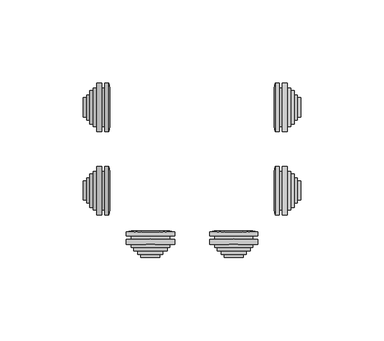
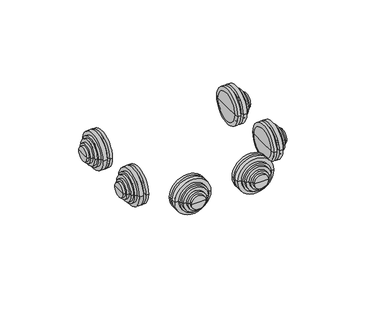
"""IFC4 building model written with IfcOpenShell, lengths in millimetres: cable carrier fitting geometry, КНС_КоробкаОтветвительнаяСКабельнымиВводами_8+2_IP55_DKC : с 8+2 кабельными вводами д.20/20мм, IP55,70х70х40мм."""

from ifc_helpers import new_model, si_unit, frame, origin, place, context, project, spatial, polyline, circle_curve, source, transform, mapped, element, save
from ifc_brep_helpers import plane_surface, cylinder_surface, revolved_surface, advanced_brep


def cable_carrier_fitting_b24fd5af(model_context):
    return source(origin(), model_context, "Body", "AdvancedBrep", [
        advanced_brep(
        [(-52.2, -36.5, 20.9), (-52.2, -13.5, 20.9), (-52.2, -10.5, 20.9), (-52.2, -39.5, 20.9), (-54.2, -36.5, 20.9), (-54.2, -13.5, 20.9), (-54.2, -39.5, 20.9), (-54.2, -10.5, 20.9), (-57.2, -39.5, 20.9), (-57.2, -10.5, 20.9), (-57.2, -36.5, 20.9), (-57.2, -13.5, 20.9), (-59.2, -36.5, 20.9), (-59.2, -13.5, 20.9), (-59.2, -35.0, 20.9), (-59.2, -15.0, 20.9), (-61.2, -35.0, 20.9), (-61.2, -15.0, 20.9), (-61.2, -32.5, 20.9), (-61.2, -17.5, 20.9), (-63.2, -32.5, 20.9), (-63.2, -17.5, 20.9), (-63.2, -30.75, 20.9), (-63.2, -19.25, 20.9), (-65.2, -30.75, 20.9), (-65.2, -19.25, 20.9), (-65.2, -25.0, 20.9), (-49.2, -36.5, 20.9), (-49.2, -13.5, 20.9), (-49.2, -25.0, 20.9), (-49.9491137, -39.5, 20.9), (-49.9491137, -10.5, 20.9)],
        [
            (0, 1, circle_curve(frame((-52.2, -25.0, 20.9), z_axis=(1.0, 0.0, 0.0), x_axis=(0.0, 1.0000000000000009, 0.0)), 11.5)),
            (1, 2),
            (2, 3, circle_curve(frame((-52.2, -25.0, 20.9), z_axis=(-1.0, 0.0, 0.0), x_axis=(0.0, 1.0000000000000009, 0.0)), 14.5)),
            (3, 0),
            (1, 0, circle_curve(frame((-52.2, -25.0, 20.9), z_axis=(1.0, 0.0, 0.0), x_axis=(0.0, 1.0000000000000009, 0.0)), 11.5)),
            (3, 2, circle_curve(frame((-52.2, -25.0, 20.9), z_axis=(-1.0, 0.0, 0.0), x_axis=(0.0, 1.0000000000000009, 0.0)), 14.5)),
            (4, 5, circle_curve(frame((-54.2, -25.0, 20.9), z_axis=(1.0, 0.0, 0.0), x_axis=(0.0, 1.0000000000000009, 0.0)), 11.5)),
            (5, 1),
            (0, 4),
            (5, 4, circle_curve(frame((-54.2, -25.0, 20.9), z_axis=(1.0, 0.0, 0.0), x_axis=(0.0, 1.0000000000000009, 0.0)), 11.5)),
            (6, 7, circle_curve(frame((-54.2, -25.0, 20.9), z_axis=(1.0, 0.0, 0.0), x_axis=(0.0, 1.0000000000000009, 0.0)), 14.5)),
            (7, 5),
            (4, 6),
            (7, 6, circle_curve(frame((-54.2, -25.0, 20.9), z_axis=(1.0, 0.0, 0.0), x_axis=(0.0, 1.0000000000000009, 0.0)), 14.5)),
            (8, 9, circle_curve(frame((-57.2, -25.0, 20.9), z_axis=(1.0, 0.0, 0.0), x_axis=(0.0, 1.0000000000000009, 0.0)), 14.5)),
            (9, 7),
            (6, 8),
            (9, 8, circle_curve(frame((-57.2, -25.0, 20.9), z_axis=(1.0, 0.0, 0.0), x_axis=(0.0, 1.0000000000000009, 0.0)), 14.5)),
            (10, 11, circle_curve(frame((-57.2, -25.0, 20.9), z_axis=(1.0, 0.0, 0.0), x_axis=(0.0, 1.0000000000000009, 0.0)), 11.5)),
            (11, 9),
            (8, 10),
            (11, 10, circle_curve(frame((-57.2, -25.0, 20.9), z_axis=(1.0, 0.0, 0.0), x_axis=(0.0, 1.0000000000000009, 0.0)), 11.5)),
            (12, 13, circle_curve(frame((-59.2, -25.0, 20.9), z_axis=(1.0, 0.0, 0.0), x_axis=(0.0, 1.0000000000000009, 0.0)), 11.5)),
            (13, 11),
            (10, 12),
            (13, 12, circle_curve(frame((-59.2, -25.0, 20.9), z_axis=(1.0, 0.0, 0.0), x_axis=(0.0, 1.0000000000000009, 0.0)), 11.5)),
            (14, 15, circle_curve(frame((-59.2, -25.0, 20.9), z_axis=(1.0, 0.0, 0.0), x_axis=(0.0, 1.0000000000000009, 0.0)), 10.0)),
            (15, 13),
            (12, 14),
            (15, 14, circle_curve(frame((-59.2, -25.0, 20.9), z_axis=(1.0, 0.0, 0.0), x_axis=(0.0, 1.0000000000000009, 0.0)), 10.0)),
            (16, 17, circle_curve(frame((-61.2, -25.0, 20.9), z_axis=(1.0, 0.0, 0.0), x_axis=(0.0, 1.0000000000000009, 0.0)), 10.0)),
            (17, 15),
            (14, 16),
            (17, 16, circle_curve(frame((-61.2, -25.0, 20.9), z_axis=(1.0, 0.0, 0.0), x_axis=(0.0, 1.0000000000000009, 0.0)), 10.0)),
            (18, 19, circle_curve(frame((-61.2, -25.0, 20.9), z_axis=(1.0, 0.0, 0.0), x_axis=(0.0, 1.0000000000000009, 0.0)), 7.5)),
            (19, 17),
            (16, 18),
            (19, 18, circle_curve(frame((-61.2, -25.0, 20.9), z_axis=(1.0, 0.0, 0.0), x_axis=(0.0, 1.0000000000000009, 0.0)), 7.5)),
            (20, 21, circle_curve(frame((-63.2, -25.0, 20.9), z_axis=(1.0, 0.0, 0.0), x_axis=(0.0, 1.0000000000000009, 0.0)), 7.5)),
            (21, 19),
            (18, 20),
            (21, 20, circle_curve(frame((-63.2, -25.0, 20.9), z_axis=(1.0, 0.0, 0.0), x_axis=(0.0, 1.0000000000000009, 0.0)), 7.5)),
            (22, 23, circle_curve(frame((-63.2, -25.0, 20.9), z_axis=(1.0, 0.0, 0.0), x_axis=(0.0, 1.0000000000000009, 0.0)), 5.75)),
            (23, 21),
            (20, 22),
            (23, 22, circle_curve(frame((-63.2, -25.0, 20.9), z_axis=(1.0, 0.0, 0.0), x_axis=(0.0, 1.0000000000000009, 0.0)), 5.75)),
            (24, 25, circle_curve(frame((-65.2, -25.0, 20.9), z_axis=(1.0, 0.0, 0.0), x_axis=(0.0, 1.0000000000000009, 0.0)), 5.75)),
            (25, 23),
            (22, 24),
            (25, 24, circle_curve(frame((-65.2, -25.0, 20.9), z_axis=(1.0, 0.0, 0.0), x_axis=(0.0, 1.0000000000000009, 0.0)), 5.75)),
            (26, 25),
            (24, 26),
            (27, 28, circle_curve(frame((-49.2, -25.0, 20.9), z_axis=(1.0, 0.0, 0.0), x_axis=(0.0, 1.0000000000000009, 0.0)), 11.5)),
            (28, 29),
            (29, 27),
            (28, 27, circle_curve(frame((-49.2, -25.0, 20.9), z_axis=(1.0, 0.0, 0.0), x_axis=(0.0, 1.0000000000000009, 0.0)), 11.5)),
            (30, 31, circle_curve(frame((-49.9491137, -25.0, 20.9), z_axis=(1.0, 0.0, 0.0), x_axis=(0.0, 1.0000000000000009, 0.0)), 14.5)),
            (31, 28),
            (27, 30),
            (31, 30, circle_curve(frame((-49.9491137, -25.0, 20.9), z_axis=(1.0, 0.0, 0.0), x_axis=(0.0, 1.0000000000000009, 0.0)), 14.5)),
            (2, 31),
            (30, 3),
        ],
        [
            plane_surface(frame((-52.2, -25.0, 20.9), z_axis=(-1.0, 0.0, 0.0), x_axis=(0.0, 1.0, 0.0))),
            cylinder_surface(frame((1460.8, -25.0, 20.9), z_axis=(-1.0000000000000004, 0.0, 0.0), x_axis=(0.0, 1.0000000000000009, 0.0)), 11.5),
            plane_surface(frame((-54.2, -25.0, 20.9), z_axis=(1.0, 0.0, 0.0), x_axis=(0.0, 1.0, 0.0))),
            cylinder_surface(frame((1460.8, -25.0, 20.9), z_axis=(-1.0000000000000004, 0.0, 0.0), x_axis=(0.0, 1.0000000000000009, 0.0)), 14.5),
            plane_surface(frame((-57.2, -25.0, 20.9), z_axis=(-1.0, 0.0, 0.0), x_axis=(0.0, 1.0, 0.0))),
            plane_surface(frame((-59.2, -25.0, 20.9), z_axis=(-1.0, 0.0, 0.0), x_axis=(0.0, 1.0, 0.0))),
            cylinder_surface(frame((1460.8, -25.0, 20.9), z_axis=(-1.0000000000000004, 0.0, 0.0), x_axis=(0.0, 1.0000000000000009, 0.0)), 10.0),
            plane_surface(frame((-61.2, -25.0, 20.9), z_axis=(-1.0, 0.0, 0.0), x_axis=(0.0, 1.0, 0.0))),
            cylinder_surface(frame((1460.8, -25.0, 20.9), z_axis=(-1.0000000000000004, 0.0, 0.0), x_axis=(0.0, 1.0000000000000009, 0.0)), 7.5),
            plane_surface(frame((-63.2, -25.0, 20.9), z_axis=(-1.0, 0.0, 0.0), x_axis=(0.0, 1.0, 0.0))),
            cylinder_surface(frame((1460.8, -25.0, 20.9), z_axis=(-1.0000000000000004, 0.0, 0.0), x_axis=(0.0, 1.0000000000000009, 0.0)), 5.75),
            plane_surface(frame((-65.2, -25.0, 20.9), z_axis=(-1.0, 0.0, 0.0), x_axis=(0.0, 1.0, 0.0))),
            plane_surface(frame((-49.2, -25.0, 20.9), z_axis=(1.0, 0.0, 0.0), x_axis=(0.0, 1.0, 0.0))),
            revolved_surface(polyline([(-49.2, -13.5, 20.9), (-49.9491137, -10.5, 20.9)]), (1460.8, -25.0, 20.9), (-1.0000000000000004, 0.0, 0.0)),
        ],
        [
            (0, [[1, 2, 3, 4]]),
            (0, [[5, -4, 6, -2]]),
            (1, [[7, 8, -1, 9]]),
            (1, [[10, -9, -5, -8]]),
            (2, [[11, 12, -7, 13]]),
            (2, [[14, -13, -10, -12]]),
            (3, [[15, 16, -11, 17]]),
            (3, [[18, -17, -14, -16]]),
            (4, [[19, 20, -15, 21]]),
            (4, [[22, -21, -18, -20]]),
            (1, [[23, 24, -19, 25]]),
            (1, [[26, -25, -22, -24]]),
            (5, [[27, 28, -23, 29]]),
            (5, [[30, -29, -26, -28]]),
            (6, [[31, 32, -27, 33]]),
            (6, [[34, -33, -30, -32]]),
            (7, [[35, 36, -31, 37]]),
            (7, [[38, -37, -34, -36]]),
            (8, [[39, 40, -35, 41]]),
            (8, [[42, -41, -38, -40]]),
            (9, [[43, 44, -39, 45]]),
            (9, [[46, -45, -42, -44]]),
            (10, [[47, 48, -43, 49]]),
            (10, [[50, -49, -46, -48]]),
            (11, [[51, -47, 52]]),
            (11, [[-52, -50, -51]]),
            (12, [[53, 54, 55]]),
            (12, [[56, -55, -54]]),
            (13, [[57, 58, -53, 59]]),
            (13, [[60, -59, -56, -58]]),
            (3, [[-3, 61, -57, 62]]),
            (3, [[-6, -62, -60, -61]]),
        ],
    ),
        advanced_brep(
        [(-52.2, 13.5, 20.9), (-52.2, 36.5, 20.9), (-52.2, 39.5, 20.9), (-52.2, 10.5, 20.9), (-54.2, 13.5, 20.9), (-54.2, 36.5, 20.9), (-54.2, 10.5, 20.9), (-54.2, 39.5, 20.9), (-57.2, 10.5, 20.9), (-57.2, 39.5, 20.9), (-57.2, 13.5, 20.9), (-57.2, 36.5, 20.9), (-59.2, 13.5, 20.9), (-59.2, 36.5, 20.9), (-59.2, 15.0, 20.9), (-59.2, 35.0, 20.9), (-61.2, 15.0, 20.9), (-61.2, 35.0, 20.9), (-61.2, 17.5, 20.9), (-61.2, 32.5, 20.9), (-63.2, 17.5, 20.9), (-63.2, 32.5, 20.9), (-63.2, 19.25, 20.9), (-63.2, 30.75, 20.9), (-65.2, 19.25, 20.9), (-65.2, 30.75, 20.9), (-65.2, 25.0, 20.9), (-49.2, 13.5, 20.9), (-49.2, 36.5, 20.9), (-49.2, 25.0, 20.9), (-49.9491137, 10.5, 20.9), (-49.9491137, 39.5, 20.9)],
        [
            (0, 1, circle_curve(frame((-52.2, 25.0, 20.9), z_axis=(1.0, 0.0, 0.0), x_axis=(0.0, 1.0000000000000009, 0.0)), 11.5)),
            (1, 2),
            (2, 3, circle_curve(frame((-52.2, 25.0, 20.9), z_axis=(-1.0, 0.0, 0.0), x_axis=(0.0, 1.0000000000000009, 0.0)), 14.5)),
            (3, 0),
            (1, 0, circle_curve(frame((-52.2, 25.0, 20.9), z_axis=(1.0, 0.0, 0.0), x_axis=(0.0, 1.0000000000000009, 0.0)), 11.5)),
            (3, 2, circle_curve(frame((-52.2, 25.0, 20.9), z_axis=(-1.0, 0.0, 0.0), x_axis=(0.0, 1.0000000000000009, 0.0)), 14.5)),
            (4, 5, circle_curve(frame((-54.2, 25.0, 20.9), z_axis=(1.0, 0.0, 0.0), x_axis=(0.0, 1.0000000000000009, 0.0)), 11.5)),
            (5, 1),
            (0, 4),
            (5, 4, circle_curve(frame((-54.2, 25.0, 20.9), z_axis=(1.0, 0.0, 0.0), x_axis=(0.0, 1.0000000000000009, 0.0)), 11.5)),
            (6, 7, circle_curve(frame((-54.2, 25.0, 20.9), z_axis=(1.0, 0.0, 0.0), x_axis=(0.0, 1.0000000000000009, 0.0)), 14.5)),
            (7, 5),
            (4, 6),
            (7, 6, circle_curve(frame((-54.2, 25.0, 20.9), z_axis=(1.0, 0.0, 0.0), x_axis=(0.0, 1.0000000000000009, 0.0)), 14.5)),
            (8, 9, circle_curve(frame((-57.2, 25.0, 20.9), z_axis=(1.0, 0.0, 0.0), x_axis=(0.0, 1.0000000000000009, 0.0)), 14.5)),
            (9, 7),
            (6, 8),
            (9, 8, circle_curve(frame((-57.2, 25.0, 20.9), z_axis=(1.0, 0.0, 0.0), x_axis=(0.0, 1.0000000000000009, 0.0)), 14.5)),
            (10, 11, circle_curve(frame((-57.2, 25.0, 20.9), z_axis=(1.0, 0.0, 0.0), x_axis=(0.0, 1.0000000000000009, 0.0)), 11.5)),
            (11, 9),
            (8, 10),
            (11, 10, circle_curve(frame((-57.2, 25.0, 20.9), z_axis=(1.0, 0.0, 0.0), x_axis=(0.0, 1.0000000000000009, 0.0)), 11.5)),
            (12, 13, circle_curve(frame((-59.2, 25.0, 20.9), z_axis=(1.0, 0.0, 0.0), x_axis=(0.0, 1.0000000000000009, 0.0)), 11.5)),
            (13, 11),
            (10, 12),
            (13, 12, circle_curve(frame((-59.2, 25.0, 20.9), z_axis=(1.0, 0.0, 0.0), x_axis=(0.0, 1.0000000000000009, 0.0)), 11.5)),
            (14, 15, circle_curve(frame((-59.2, 25.0, 20.9), z_axis=(1.0, 0.0, 0.0), x_axis=(0.0, 1.0000000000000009, 0.0)), 10.0)),
            (15, 13),
            (12, 14),
            (15, 14, circle_curve(frame((-59.2, 25.0, 20.9), z_axis=(1.0, 0.0, 0.0), x_axis=(0.0, 1.0000000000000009, 0.0)), 10.0)),
            (16, 17, circle_curve(frame((-61.2, 25.0, 20.9), z_axis=(1.0, 0.0, 0.0), x_axis=(0.0, 1.0000000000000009, 0.0)), 10.0)),
            (17, 15),
            (14, 16),
            (17, 16, circle_curve(frame((-61.2, 25.0, 20.9), z_axis=(1.0, 0.0, 0.0), x_axis=(0.0, 1.0000000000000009, 0.0)), 10.0)),
            (18, 19, circle_curve(frame((-61.2, 25.0, 20.9), z_axis=(1.0, 0.0, 0.0), x_axis=(0.0, 1.0000000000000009, 0.0)), 7.5)),
            (19, 17),
            (16, 18),
            (19, 18, circle_curve(frame((-61.2, 25.0, 20.9), z_axis=(1.0, 0.0, 0.0), x_axis=(0.0, 1.0000000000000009, 0.0)), 7.5)),
            (20, 21, circle_curve(frame((-63.2, 25.0, 20.9), z_axis=(1.0, 0.0, 0.0), x_axis=(0.0, 1.0000000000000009, 0.0)), 7.5)),
            (21, 19),
            (18, 20),
            (21, 20, circle_curve(frame((-63.2, 25.0, 20.9), z_axis=(1.0, 0.0, 0.0), x_axis=(0.0, 1.0000000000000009, 0.0)), 7.5)),
            (22, 23, circle_curve(frame((-63.2, 25.0, 20.9), z_axis=(1.0, 0.0, 0.0), x_axis=(0.0, 1.0000000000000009, 0.0)), 5.75)),
            (23, 21),
            (20, 22),
            (23, 22, circle_curve(frame((-63.2, 25.0, 20.9), z_axis=(1.0, 0.0, 0.0), x_axis=(0.0, 1.0000000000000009, 0.0)), 5.75)),
            (24, 25, circle_curve(frame((-65.2, 25.0, 20.9), z_axis=(1.0, 0.0, 0.0), x_axis=(0.0, 1.0000000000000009, 0.0)), 5.75)),
            (25, 23),
            (22, 24),
            (25, 24, circle_curve(frame((-65.2, 25.0, 20.9), z_axis=(1.0, 0.0, 0.0), x_axis=(0.0, 1.0000000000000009, 0.0)), 5.75)),
            (26, 25),
            (24, 26),
            (27, 28, circle_curve(frame((-49.2, 25.0, 20.9), z_axis=(1.0, 0.0, 0.0), x_axis=(0.0, 1.0000000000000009, 0.0)), 11.5)),
            (28, 29),
            (29, 27),
            (28, 27, circle_curve(frame((-49.2, 25.0, 20.9), z_axis=(1.0, 0.0, 0.0), x_axis=(0.0, 1.0000000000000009, 0.0)), 11.5)),
            (30, 31, circle_curve(frame((-49.9491137, 25.0, 20.9), z_axis=(1.0, 0.0, 0.0), x_axis=(0.0, 1.0000000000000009, 0.0)), 14.5)),
            (31, 28),
            (27, 30),
            (31, 30, circle_curve(frame((-49.9491137, 25.0, 20.9), z_axis=(1.0, 0.0, 0.0), x_axis=(0.0, 1.0000000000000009, 0.0)), 14.5)),
            (2, 31),
            (30, 3),
        ],
        [
            plane_surface(frame((-52.2, 25.0, 20.9), z_axis=(-1.0, 0.0, 0.0), x_axis=(0.0, 1.0, 0.0))),
            cylinder_surface(frame((1460.8, 25.0, 20.9), z_axis=(-1.0000000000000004, 0.0, 0.0), x_axis=(0.0, 1.0000000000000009, 0.0)), 11.5),
            plane_surface(frame((-54.2, 25.0, 20.9), z_axis=(1.0, 0.0, 0.0), x_axis=(0.0, 1.0, 0.0))),
            cylinder_surface(frame((1460.8, 25.0, 20.9), z_axis=(-1.0000000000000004, 0.0, 0.0), x_axis=(0.0, 1.0000000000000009, 0.0)), 14.5),
            plane_surface(frame((-57.2, 25.0, 20.9), z_axis=(-1.0, 0.0, 0.0), x_axis=(0.0, 1.0, 0.0))),
            plane_surface(frame((-59.2, 25.0, 20.9), z_axis=(-1.0, 0.0, 0.0), x_axis=(0.0, 1.0, 0.0))),
            cylinder_surface(frame((1460.8, 25.0, 20.9), z_axis=(-1.0000000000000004, 0.0, 0.0), x_axis=(0.0, 1.0000000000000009, 0.0)), 10.0),
            plane_surface(frame((-61.2, 25.0, 20.9), z_axis=(-1.0, 0.0, 0.0), x_axis=(0.0, 1.0, 0.0))),
            cylinder_surface(frame((1460.8, 25.0, 20.9), z_axis=(-1.0000000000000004, 0.0, 0.0), x_axis=(0.0, 1.0000000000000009, 0.0)), 7.5),
            plane_surface(frame((-63.2, 25.0, 20.9), z_axis=(-1.0, 0.0, 0.0), x_axis=(0.0, 1.0, 0.0))),
            cylinder_surface(frame((1460.8, 25.0, 20.9), z_axis=(-1.0000000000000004, 0.0, 0.0), x_axis=(0.0, 1.0000000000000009, 0.0)), 5.75),
            plane_surface(frame((-65.2, 25.0, 20.9), z_axis=(-1.0, 0.0, 0.0), x_axis=(0.0, 1.0, 0.0))),
            plane_surface(frame((-49.2, 25.0, 20.9), z_axis=(1.0, 0.0, 0.0), x_axis=(0.0, 1.0, 0.0))),
            revolved_surface(polyline([(-49.2, 36.5, 20.9), (-49.9491137, 39.5, 20.9)]), (1460.8, 25.0, 20.9), (-1.0000000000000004, 0.0, 0.0)),
        ],
        [
            (0, [[1, 2, 3, 4]]),
            (0, [[5, -4, 6, -2]]),
            (1, [[7, 8, -1, 9]]),
            (1, [[10, -9, -5, -8]]),
            (2, [[11, 12, -7, 13]]),
            (2, [[14, -13, -10, -12]]),
            (3, [[15, 16, -11, 17]]),
            (3, [[18, -17, -14, -16]]),
            (4, [[19, 20, -15, 21]]),
            (4, [[22, -21, -18, -20]]),
            (1, [[23, 24, -19, 25]]),
            (1, [[26, -25, -22, -24]]),
            (5, [[27, 28, -23, 29]]),
            (5, [[30, -29, -26, -28]]),
            (6, [[31, 32, -27, 33]]),
            (6, [[34, -33, -30, -32]]),
            (7, [[35, 36, -31, 37]]),
            (7, [[38, -37, -34, -36]]),
            (8, [[39, 40, -35, 41]]),
            (8, [[42, -41, -38, -40]]),
            (9, [[43, 44, -39, 45]]),
            (9, [[46, -45, -42, -44]]),
            (10, [[47, 48, -43, 49]]),
            (10, [[50, -49, -46, -48]]),
            (11, [[51, -47, 52]]),
            (11, [[-52, -50, -51]]),
            (12, [[53, 54, 55]]),
            (12, [[56, -55, -54]]),
            (13, [[57, 58, -53, 59]]),
            (13, [[60, -59, -56, -58]]),
            (3, [[-3, 61, -57, 62]]),
            (3, [[-6, -62, -60, -61]]),
        ],
    ),
        advanced_brep(
        [(52.2, 36.5, 20.9), (52.2, 13.5, 20.9), (52.2, 10.5, 20.9), (52.2, 39.5, 20.9), (54.2, 36.5, 20.9), (54.2, 13.5, 20.9), (54.2, 39.5, 20.9), (54.2, 10.5, 20.9), (57.2, 39.5, 20.9), (57.2, 10.5, 20.9), (57.2, 36.5, 20.9), (57.2, 13.5, 20.9), (59.2, 36.5, 20.9), (59.2, 13.5, 20.9), (59.2, 35.0, 20.9), (59.2, 15.0, 20.9), (61.2, 35.0, 20.9), (61.2, 15.0, 20.9), (61.2, 32.5, 20.9), (61.2, 17.5, 20.9), (63.2, 32.5, 20.9), (63.2, 17.5, 20.9), (63.2, 30.75, 20.9), (63.2, 19.25, 20.9), (65.2, 30.75, 20.9), (65.2, 19.25, 20.9), (65.2, 25.0, 20.9), (49.2, 36.5, 20.9), (49.2, 13.5, 20.9), (49.2, 25.0, 20.9), (49.9491137, 39.5, 20.9), (49.9491137, 10.5, 20.9)],
        [
            (0, 1, circle_curve(frame((52.2, 25.0, 20.9), z_axis=(-1.0, 0.0, 0.0), x_axis=(0.0, -1.0, 0.0)), 11.5)),
            (1, 2),
            (2, 3, circle_curve(frame((52.2, 25.0, 20.9), z_axis=(1.0, 0.0, 0.0), x_axis=(0.0, -1.0, 0.0)), 14.5)),
            (3, 0),
            (1, 0, circle_curve(frame((52.2, 25.0, 20.9), z_axis=(-1.0, 0.0, 0.0), x_axis=(0.0, -1.0, 0.0)), 11.5)),
            (3, 2, circle_curve(frame((52.2, 25.0, 20.9), z_axis=(1.0, 0.0, 0.0), x_axis=(0.0, -1.0, 0.0)), 14.5)),
            (4, 5, circle_curve(frame((54.2, 25.0, 20.9), z_axis=(-1.0, 0.0, 0.0), x_axis=(0.0, -1.0, 0.0)), 11.5)),
            (5, 1),
            (0, 4),
            (5, 4, circle_curve(frame((54.2, 25.0, 20.9), z_axis=(-1.0, 0.0, 0.0), x_axis=(0.0, -1.0, 0.0)), 11.5)),
            (6, 7, circle_curve(frame((54.2, 25.0, 20.9), z_axis=(-1.0, 0.0, 0.0), x_axis=(0.0, -1.0, 0.0)), 14.5)),
            (7, 5),
            (4, 6),
            (7, 6, circle_curve(frame((54.2, 25.0, 20.9), z_axis=(-1.0, 0.0, 0.0), x_axis=(0.0, -1.0, 0.0)), 14.5)),
            (8, 9, circle_curve(frame((57.2, 25.0, 20.9), z_axis=(-1.0, 0.0, 0.0), x_axis=(0.0, -1.0, 0.0)), 14.5)),
            (9, 7),
            (6, 8),
            (9, 8, circle_curve(frame((57.2, 25.0, 20.9), z_axis=(-1.0, 0.0, 0.0), x_axis=(0.0, -1.0, 0.0)), 14.5)),
            (10, 11, circle_curve(frame((57.2, 25.0, 20.9), z_axis=(-1.0, 0.0, 0.0), x_axis=(0.0, -1.0, 0.0)), 11.5)),
            (11, 9),
            (8, 10),
            (11, 10, circle_curve(frame((57.2, 25.0, 20.9), z_axis=(-1.0, 0.0, 0.0), x_axis=(0.0, -1.0, 0.0)), 11.5)),
            (12, 13, circle_curve(frame((59.2, 25.0, 20.9), z_axis=(-1.0, 0.0, 0.0), x_axis=(0.0, -1.0, 0.0)), 11.5)),
            (13, 11),
            (10, 12),
            (13, 12, circle_curve(frame((59.2, 25.0, 20.9), z_axis=(-1.0, 0.0, 0.0), x_axis=(0.0, -1.0, 0.0)), 11.5)),
            (14, 15, circle_curve(frame((59.2, 25.0, 20.9), z_axis=(-1.0, 0.0, 0.0), x_axis=(0.0, -1.0, 0.0)), 10.0)),
            (15, 13),
            (12, 14),
            (15, 14, circle_curve(frame((59.2, 25.0, 20.9), z_axis=(-1.0, 0.0, 0.0), x_axis=(0.0, -1.0, 0.0)), 10.0)),
            (16, 17, circle_curve(frame((61.2, 25.0, 20.9), z_axis=(-1.0, 0.0, 0.0), x_axis=(0.0, -1.0, 0.0)), 10.0)),
            (17, 15),
            (14, 16),
            (17, 16, circle_curve(frame((61.2, 25.0, 20.9), z_axis=(-1.0, 0.0, 0.0), x_axis=(0.0, -1.0, 0.0)), 10.0)),
            (18, 19, circle_curve(frame((61.2, 25.0, 20.9), z_axis=(-1.0, 0.0, 0.0), x_axis=(0.0, -1.0, 0.0)), 7.5)),
            (19, 17),
            (16, 18),
            (19, 18, circle_curve(frame((61.2, 25.0, 20.9), z_axis=(-1.0, 0.0, 0.0), x_axis=(0.0, -1.0, 0.0)), 7.5)),
            (20, 21, circle_curve(frame((63.2, 25.0, 20.9), z_axis=(-1.0, 0.0, 0.0), x_axis=(0.0, -1.0, 0.0)), 7.5)),
            (21, 19),
            (18, 20),
            (21, 20, circle_curve(frame((63.2, 25.0, 20.9), z_axis=(-1.0, 0.0, 0.0), x_axis=(0.0, -1.0, 0.0)), 7.5)),
            (22, 23, circle_curve(frame((63.2, 25.0, 20.9), z_axis=(-1.0, 0.0, 0.0), x_axis=(0.0, -1.0, 0.0)), 5.75)),
            (23, 21),
            (20, 22),
            (23, 22, circle_curve(frame((63.2, 25.0, 20.9), z_axis=(-1.0, 0.0, 0.0), x_axis=(0.0, -1.0, 0.0)), 5.75)),
            (24, 25, circle_curve(frame((65.2, 25.0, 20.9), z_axis=(-1.0, 0.0, 0.0), x_axis=(0.0, -1.0, 0.0)), 5.75)),
            (25, 23),
            (22, 24),
            (25, 24, circle_curve(frame((65.2, 25.0, 20.9), z_axis=(-1.0, 0.0, 0.0), x_axis=(0.0, -1.0, 0.0)), 5.75)),
            (26, 25),
            (24, 26),
            (27, 28, circle_curve(frame((49.2, 25.0, 20.9), z_axis=(-1.0, 0.0, 0.0), x_axis=(0.0, -1.0, 0.0)), 11.5)),
            (28, 29),
            (29, 27),
            (28, 27, circle_curve(frame((49.2, 25.0, 20.9), z_axis=(-1.0, 0.0, 0.0), x_axis=(0.0, -1.0, 0.0)), 11.5)),
            (30, 31, circle_curve(frame((49.9491137, 25.0, 20.9), z_axis=(-1.0, 0.0, 0.0), x_axis=(0.0, -1.0, 0.0)), 14.5)),
            (31, 28),
            (27, 30),
            (31, 30, circle_curve(frame((49.9491137, 25.0, 20.9), z_axis=(-1.0, 0.0, 0.0), x_axis=(0.0, -1.0, 0.0)), 14.5)),
            (2, 31),
            (30, 3),
        ],
        [
            plane_surface(frame((52.2, 25.0, 20.9), z_axis=(1.0, 0.0, 0.0), x_axis=(0.0, -1.0, 0.0))),
            cylinder_surface(frame((-1460.8, 25.0, 20.9), z_axis=(1.0, 0.0, 0.0), x_axis=(0.0, -1.0, 0.0)), 11.5),
            plane_surface(frame((54.2, 25.0, 20.9), z_axis=(-1.0, 0.0, 0.0), x_axis=(0.0, -1.0, 0.0))),
            cylinder_surface(frame((-1460.8, 25.0, 20.9), z_axis=(1.0, 0.0, 0.0), x_axis=(0.0, -1.0, 0.0)), 14.5),
            plane_surface(frame((57.2, 25.0, 20.9), z_axis=(1.0, 0.0, 0.0), x_axis=(0.0, -1.0, 0.0))),
            plane_surface(frame((59.2, 25.0, 20.9), z_axis=(1.0, 0.0, 0.0), x_axis=(0.0, -1.0, 0.0))),
            cylinder_surface(frame((-1460.8, 25.0, 20.9), z_axis=(1.0, 0.0, 0.0), x_axis=(0.0, -1.0, 0.0)), 10.0),
            plane_surface(frame((61.2, 25.0, 20.9), z_axis=(1.0, 0.0, 0.0), x_axis=(0.0, -1.0, 0.0))),
            cylinder_surface(frame((-1460.8, 25.0, 20.9), z_axis=(1.0, 0.0, 0.0), x_axis=(0.0, -1.0, 0.0)), 7.5),
            plane_surface(frame((63.2, 25.0, 20.9), z_axis=(1.0, 0.0, 0.0), x_axis=(0.0, -1.0, 0.0))),
            cylinder_surface(frame((-1460.8, 25.0, 20.9), z_axis=(1.0, 0.0, 0.0), x_axis=(0.0, -1.0, 0.0)), 5.75),
            plane_surface(frame((65.2, 25.0, 20.9), z_axis=(1.0, 0.0, 0.0), x_axis=(0.0, -1.0, 0.0))),
            plane_surface(frame((49.2, 25.0, 20.9), z_axis=(-1.0, 0.0, 0.0), x_axis=(0.0, -1.0, 0.0))),
            revolved_surface(polyline([(49.2, 13.5, 20.9), (49.9491137, 10.5, 20.9)]), (-1460.8, 25.0, 20.9), (1.0, 0.0, 0.0)),
        ],
        [
            (0, [[1, 2, 3, 4]]),
            (0, [[5, -4, 6, -2]]),
            (1, [[7, 8, -1, 9]]),
            (1, [[10, -9, -5, -8]]),
            (2, [[11, 12, -7, 13]]),
            (2, [[14, -13, -10, -12]]),
            (3, [[15, 16, -11, 17]]),
            (3, [[18, -17, -14, -16]]),
            (4, [[19, 20, -15, 21]]),
            (4, [[22, -21, -18, -20]]),
            (1, [[23, 24, -19, 25]]),
            (1, [[26, -25, -22, -24]]),
            (5, [[27, 28, -23, 29]]),
            (5, [[30, -29, -26, -28]]),
            (6, [[31, 32, -27, 33]]),
            (6, [[34, -33, -30, -32]]),
            (7, [[35, 36, -31, 37]]),
            (7, [[38, -37, -34, -36]]),
            (8, [[39, 40, -35, 41]]),
            (8, [[42, -41, -38, -40]]),
            (9, [[43, 44, -39, 45]]),
            (9, [[46, -45, -42, -44]]),
            (10, [[47, 48, -43, 49]]),
            (10, [[50, -49, -46, -48]]),
            (11, [[51, -47, 52]]),
            (11, [[-52, -50, -51]]),
            (12, [[53, 54, 55]]),
            (12, [[56, -55, -54]]),
            (13, [[57, 58, -53, 59]]),
            (13, [[60, -59, -56, -58]]),
            (3, [[-3, 61, -57, 62]]),
            (3, [[-6, -62, -60, -61]]),
        ],
    ),
        advanced_brep(
        [(52.2, -13.5, 20.9), (52.2, -36.5, 20.9), (52.2, -39.5, 20.9), (52.2, -10.5, 20.9), (54.2, -13.5, 20.9), (54.2, -36.5, 20.9), (54.2, -10.5, 20.9), (54.2, -39.5, 20.9), (57.2, -10.5, 20.9), (57.2, -39.5, 20.9), (57.2, -13.5, 20.9), (57.2, -36.5, 20.9), (59.2, -13.5, 20.9), (59.2, -36.5, 20.9), (59.2, -15.0, 20.9), (59.2, -35.0, 20.9), (61.2, -15.0, 20.9), (61.2, -35.0, 20.9), (61.2, -17.5, 20.9), (61.2, -32.5, 20.9), (63.2, -17.5, 20.9), (63.2, -32.5, 20.9), (63.2, -19.25, 20.9), (63.2, -30.75, 20.9), (65.2, -19.25, 20.9), (65.2, -30.75, 20.9), (65.2, -25.0, 20.9), (49.2, -13.5, 20.9), (49.2, -36.5, 20.9), (49.2, -25.0, 20.9), (49.9491137, -10.5, 20.9), (49.9491137, -39.5, 20.9)],
        [
            (0, 1, circle_curve(frame((52.2, -25.0, 20.9), z_axis=(-1.0, 0.0, 0.0), x_axis=(0.0, -1.0000000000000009, 0.0)), 11.5)),
            (1, 2),
            (2, 3, circle_curve(frame((52.2, -25.0, 20.9), z_axis=(1.0, 0.0, 0.0), x_axis=(0.0, -1.0000000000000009, 0.0)), 14.5)),
            (3, 0),
            (1, 0, circle_curve(frame((52.2, -25.0, 20.9), z_axis=(-1.0, 0.0, 0.0), x_axis=(0.0, -1.0000000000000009, 0.0)), 11.5)),
            (3, 2, circle_curve(frame((52.2, -25.0, 20.9), z_axis=(1.0, 0.0, 0.0), x_axis=(0.0, -1.0000000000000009, 0.0)), 14.5)),
            (4, 5, circle_curve(frame((54.2, -25.0, 20.9), z_axis=(-1.0, 0.0, 0.0), x_axis=(0.0, -1.0000000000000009, 0.0)), 11.5)),
            (5, 1),
            (0, 4),
            (5, 4, circle_curve(frame((54.2, -25.0, 20.9), z_axis=(-1.0, 0.0, 0.0), x_axis=(0.0, -1.0000000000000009, 0.0)), 11.5)),
            (6, 7, circle_curve(frame((54.2, -25.0, 20.9), z_axis=(-1.0, 0.0, 0.0), x_axis=(0.0, -1.0000000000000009, 0.0)), 14.5)),
            (7, 5),
            (4, 6),
            (7, 6, circle_curve(frame((54.2, -25.0, 20.9), z_axis=(-1.0, 0.0, 0.0), x_axis=(0.0, -1.0000000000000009, 0.0)), 14.5)),
            (8, 9, circle_curve(frame((57.2, -25.0, 20.9), z_axis=(-1.0, 0.0, 0.0), x_axis=(0.0, -1.0000000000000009, 0.0)), 14.5)),
            (9, 7),
            (6, 8),
            (9, 8, circle_curve(frame((57.2, -25.0, 20.9), z_axis=(-1.0, 0.0, 0.0), x_axis=(0.0, -1.0000000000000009, 0.0)), 14.5)),
            (10, 11, circle_curve(frame((57.2, -25.0, 20.9), z_axis=(-1.0, 0.0, 0.0), x_axis=(0.0, -1.0000000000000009, 0.0)), 11.5)),
            (11, 9),
            (8, 10),
            (11, 10, circle_curve(frame((57.2, -25.0, 20.9), z_axis=(-1.0, 0.0, 0.0), x_axis=(0.0, -1.0000000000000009, 0.0)), 11.5)),
            (12, 13, circle_curve(frame((59.2, -25.0, 20.9), z_axis=(-1.0, 0.0, 0.0), x_axis=(0.0, -1.0000000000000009, 0.0)), 11.5)),
            (13, 11),
            (10, 12),
            (13, 12, circle_curve(frame((59.2, -25.0, 20.9), z_axis=(-1.0, 0.0, 0.0), x_axis=(0.0, -1.0000000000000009, 0.0)), 11.5)),
            (14, 15, circle_curve(frame((59.2, -25.0, 20.9), z_axis=(-1.0, 0.0, 0.0), x_axis=(0.0, -1.0000000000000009, 0.0)), 10.0)),
            (15, 13),
            (12, 14),
            (15, 14, circle_curve(frame((59.2, -25.0, 20.9), z_axis=(-1.0, 0.0, 0.0), x_axis=(0.0, -1.0000000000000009, 0.0)), 10.0)),
            (16, 17, circle_curve(frame((61.2, -25.0, 20.9), z_axis=(-1.0, 0.0, 0.0), x_axis=(0.0, -1.0000000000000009, 0.0)), 10.0)),
            (17, 15),
            (14, 16),
            (17, 16, circle_curve(frame((61.2, -25.0, 20.9), z_axis=(-1.0, 0.0, 0.0), x_axis=(0.0, -1.0000000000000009, 0.0)), 10.0)),
            (18, 19, circle_curve(frame((61.2, -25.0, 20.9), z_axis=(-1.0, 0.0, 0.0), x_axis=(0.0, -1.0000000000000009, 0.0)), 7.5)),
            (19, 17),
            (16, 18),
            (19, 18, circle_curve(frame((61.2, -25.0, 20.9), z_axis=(-1.0, 0.0, 0.0), x_axis=(0.0, -1.0000000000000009, 0.0)), 7.5)),
            (20, 21, circle_curve(frame((63.2, -25.0, 20.9), z_axis=(-1.0, 0.0, 0.0), x_axis=(0.0, -1.0000000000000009, 0.0)), 7.5)),
            (21, 19),
            (18, 20),
            (21, 20, circle_curve(frame((63.2, -25.0, 20.9), z_axis=(-1.0, 0.0, 0.0), x_axis=(0.0, -1.0000000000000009, 0.0)), 7.5)),
            (22, 23, circle_curve(frame((63.2, -25.0, 20.9), z_axis=(-1.0, 0.0, 0.0), x_axis=(0.0, -1.0000000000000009, 0.0)), 5.75)),
            (23, 21),
            (20, 22),
            (23, 22, circle_curve(frame((63.2, -25.0, 20.9), z_axis=(-1.0, 0.0, 0.0), x_axis=(0.0, -1.0000000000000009, 0.0)), 5.75)),
            (24, 25, circle_curve(frame((65.2, -25.0, 20.9), z_axis=(-1.0, 0.0, 0.0), x_axis=(0.0, -1.0000000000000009, 0.0)), 5.75)),
            (25, 23),
            (22, 24),
            (25, 24, circle_curve(frame((65.2, -25.0, 20.9), z_axis=(-1.0, 0.0, 0.0), x_axis=(0.0, -1.0000000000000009, 0.0)), 5.75)),
            (26, 25),
            (24, 26),
            (27, 28, circle_curve(frame((49.2, -25.0, 20.9), z_axis=(-1.0, 0.0, 0.0), x_axis=(0.0, -1.0000000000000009, 0.0)), 11.5)),
            (28, 29),
            (29, 27),
            (28, 27, circle_curve(frame((49.2, -25.0, 20.9), z_axis=(-1.0, 0.0, 0.0), x_axis=(0.0, -1.0000000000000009, 0.0)), 11.5)),
            (30, 31, circle_curve(frame((49.9491137, -25.0, 20.9), z_axis=(-1.0, 0.0, 0.0), x_axis=(0.0, -1.0000000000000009, 0.0)), 14.5)),
            (31, 28),
            (27, 30),
            (31, 30, circle_curve(frame((49.9491137, -25.0, 20.9), z_axis=(-1.0, 0.0, 0.0), x_axis=(0.0, -1.0000000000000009, 0.0)), 14.5)),
            (2, 31),
            (30, 3),
        ],
        [
            plane_surface(frame((52.2, -25.0, 20.9), z_axis=(1.0, 0.0, 0.0), x_axis=(0.0, -1.0, 0.0))),
            cylinder_surface(frame((-1460.8, -25.0, 20.9), z_axis=(1.0000000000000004, 0.0, 0.0), x_axis=(0.0, -1.0000000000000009, 0.0)), 11.5),
            plane_surface(frame((54.2, -25.0, 20.9), z_axis=(-1.0, 0.0, 0.0), x_axis=(0.0, -1.0, 0.0))),
            cylinder_surface(frame((-1460.8, -25.0, 20.9), z_axis=(1.0000000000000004, 0.0, 0.0), x_axis=(0.0, -1.0000000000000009, 0.0)), 14.5),
            plane_surface(frame((57.2, -25.0, 20.9), z_axis=(1.0, 0.0, 0.0), x_axis=(0.0, -1.0, 0.0))),
            plane_surface(frame((59.2, -25.0, 20.9), z_axis=(1.0, 0.0, 0.0), x_axis=(0.0, -1.0, 0.0))),
            cylinder_surface(frame((-1460.8, -25.0, 20.9), z_axis=(1.0000000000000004, 0.0, 0.0), x_axis=(0.0, -1.0000000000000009, 0.0)), 10.0),
            plane_surface(frame((61.2, -25.0, 20.9), z_axis=(1.0, 0.0, 0.0), x_axis=(0.0, -1.0, 0.0))),
            cylinder_surface(frame((-1460.8, -25.0, 20.9), z_axis=(1.0000000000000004, 0.0, 0.0), x_axis=(0.0, -1.0000000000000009, 0.0)), 7.5),
            plane_surface(frame((63.2, -25.0, 20.9), z_axis=(1.0, 0.0, 0.0), x_axis=(0.0, -1.0, 0.0))),
            cylinder_surface(frame((-1460.8, -25.0, 20.9), z_axis=(1.0000000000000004, 0.0, 0.0), x_axis=(0.0, -1.0000000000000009, 0.0)), 5.75),
            plane_surface(frame((65.2, -25.0, 20.9), z_axis=(1.0, 0.0, 0.0), x_axis=(0.0, -1.0, 0.0))),
            plane_surface(frame((49.2, -25.0, 20.9), z_axis=(-1.0, 0.0, 0.0), x_axis=(0.0, -1.0, 0.0))),
            revolved_surface(polyline([(49.2, -36.5, 20.9), (49.9491137, -39.5, 20.9)]), (-1460.8, -25.0, 20.9), (1.0000000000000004, 0.0, 0.0)),
        ],
        [
            (0, [[1, 2, 3, 4]]),
            (0, [[5, -4, 6, -2]]),
            (1, [[7, 8, -1, 9]]),
            (1, [[10, -9, -5, -8]]),
            (2, [[11, 12, -7, 13]]),
            (2, [[14, -13, -10, -12]]),
            (3, [[15, 16, -11, 17]]),
            (3, [[18, -17, -14, -16]]),
            (4, [[19, 20, -15, 21]]),
            (4, [[22, -21, -18, -20]]),
            (1, [[23, 24, -19, 25]]),
            (1, [[26, -25, -22, -24]]),
            (5, [[27, 28, -23, 29]]),
            (5, [[30, -29, -26, -28]]),
            (6, [[31, 32, -27, 33]]),
            (6, [[34, -33, -30, -32]]),
            (7, [[35, 36, -31, 37]]),
            (7, [[38, -37, -34, -36]]),
            (8, [[39, 40, -35, 41]]),
            (8, [[42, -41, -38, -40]]),
            (9, [[43, 44, -39, 45]]),
            (9, [[46, -45, -42, -44]]),
            (10, [[47, 48, -43, 49]]),
            (10, [[50, -49, -46, -48]]),
            (11, [[51, -47, 52]]),
            (11, [[-52, -50, -51]]),
            (12, [[53, 54, 55]]),
            (12, [[56, -55, -54]]),
            (13, [[57, 58, -53, 59]]),
            (13, [[60, -59, -56, -58]]),
            (3, [[-3, 61, -57, 62]]),
            (3, [[-6, -62, -60, -61]]),
        ],
    ),
        advanced_brep(
        [(36.5, -52.2, 20.9), (13.5, -52.2, 20.9), (10.5, -52.2, 20.9), (39.5, -52.2, 20.9), (36.5, -54.2, 20.9), (13.5, -54.2, 20.9), (39.5, -54.2, 20.9), (10.5, -54.2, 20.9), (39.5, -57.2, 20.9), (10.5, -57.2, 20.9), (36.5, -57.2, 20.9), (13.5, -57.2, 20.9), (36.5, -59.2, 20.9), (13.5, -59.2, 20.9), (35.0, -59.2, 20.9), (15.0, -59.2, 20.9), (35.0, -61.2, 20.9), (15.0, -61.2, 20.9), (32.5, -61.2, 20.9), (17.5, -61.2, 20.9), (32.5, -63.2, 20.9), (17.5, -63.2, 20.9), (30.75, -63.2, 20.9), (19.25, -63.2, 20.9), (30.75, -65.2, 20.9), (19.25, -65.2, 20.9), (25.0, -65.2, 20.9), (36.5, -49.2, 20.9), (13.5, -49.2, 20.9), (25.0, -49.2, 20.9), (39.5, -49.9491137, 20.9), (10.5, -49.9491137, 20.9)],
        [
            (0, 1, circle_curve(frame((25.0, -52.2, 20.9), z_axis=(0.0, 1.0, 0.0), x_axis=(-1.0000000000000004, 0.0, 0.0)), 11.5)),
            (1, 2),
            (2, 3, circle_curve(frame((25.0, -52.2, 20.9), z_axis=(0.0, -1.0, 0.0), x_axis=(-1.0000000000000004, 0.0, 0.0)), 14.5)),
            (3, 0),
            (1, 0, circle_curve(frame((25.0, -52.2, 20.9), z_axis=(0.0, 1.0, 0.0), x_axis=(-1.0000000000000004, 0.0, 0.0)), 11.5)),
            (3, 2, circle_curve(frame((25.0, -52.2, 20.9), z_axis=(0.0, -1.0, 0.0), x_axis=(-1.0000000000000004, 0.0, 0.0)), 14.5)),
            (4, 5, circle_curve(frame((25.0, -54.2, 20.9), z_axis=(0.0, 1.0, 0.0), x_axis=(-1.0000000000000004, 0.0, 0.0)), 11.5)),
            (5, 1),
            (0, 4),
            (5, 4, circle_curve(frame((25.0, -54.2, 20.9), z_axis=(0.0, 1.0, 0.0), x_axis=(-1.0000000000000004, 0.0, 0.0)), 11.5)),
            (6, 7, circle_curve(frame((25.0, -54.2, 20.9), z_axis=(0.0, 1.0, 0.0), x_axis=(-1.0000000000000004, 0.0, 0.0)), 14.5)),
            (7, 5),
            (4, 6),
            (7, 6, circle_curve(frame((25.0, -54.2, 20.9), z_axis=(0.0, 1.0, 0.0), x_axis=(-1.0000000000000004, 0.0, 0.0)), 14.5)),
            (8, 9, circle_curve(frame((25.0, -57.2, 20.9), z_axis=(0.0, 1.0, 0.0), x_axis=(-1.0000000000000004, 0.0, 0.0)), 14.5)),
            (9, 7),
            (6, 8),
            (9, 8, circle_curve(frame((25.0, -57.2, 20.9), z_axis=(0.0, 1.0, 0.0), x_axis=(-1.0000000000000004, 0.0, 0.0)), 14.5)),
            (10, 11, circle_curve(frame((25.0, -57.2, 20.9), z_axis=(0.0, 1.0, 0.0), x_axis=(-1.0000000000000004, 0.0, 0.0)), 11.5)),
            (11, 9),
            (8, 10),
            (11, 10, circle_curve(frame((25.0, -57.2, 20.9), z_axis=(0.0, 1.0, 0.0), x_axis=(-1.0000000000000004, 0.0, 0.0)), 11.5)),
            (12, 13, circle_curve(frame((25.0, -59.2, 20.9), z_axis=(0.0, 1.0, 0.0), x_axis=(-1.0000000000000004, 0.0, 0.0)), 11.5)),
            (13, 11),
            (10, 12),
            (13, 12, circle_curve(frame((25.0, -59.2, 20.9), z_axis=(0.0, 1.0, 0.0), x_axis=(-1.0000000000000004, 0.0, 0.0)), 11.5)),
            (14, 15, circle_curve(frame((25.0, -59.2, 20.9), z_axis=(0.0, 1.0, 0.0), x_axis=(-1.0000000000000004, 0.0, 0.0)), 10.0)),
            (15, 13),
            (12, 14),
            (15, 14, circle_curve(frame((25.0, -59.2, 20.9), z_axis=(0.0, 1.0, 0.0), x_axis=(-1.0000000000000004, 0.0, 0.0)), 10.0)),
            (16, 17, circle_curve(frame((25.0, -61.2, 20.9), z_axis=(0.0, 1.0, 0.0), x_axis=(-1.0000000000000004, 0.0, 0.0)), 10.0)),
            (17, 15),
            (14, 16),
            (17, 16, circle_curve(frame((25.0, -61.2, 20.9), z_axis=(0.0, 1.0, 0.0), x_axis=(-1.0000000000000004, 0.0, 0.0)), 10.0)),
            (18, 19, circle_curve(frame((25.0, -61.2, 20.9), z_axis=(0.0, 1.0, 0.0), x_axis=(-1.0000000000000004, 0.0, 0.0)), 7.5)),
            (19, 17),
            (16, 18),
            (19, 18, circle_curve(frame((25.0, -61.2, 20.9), z_axis=(0.0, 1.0, 0.0), x_axis=(-1.0000000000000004, 0.0, 0.0)), 7.5)),
            (20, 21, circle_curve(frame((25.0, -63.2, 20.9), z_axis=(0.0, 1.0, 0.0), x_axis=(-1.0000000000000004, 0.0, 0.0)), 7.5)),
            (21, 19),
            (18, 20),
            (21, 20, circle_curve(frame((25.0, -63.2, 20.9), z_axis=(0.0, 1.0, 0.0), x_axis=(-1.0000000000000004, 0.0, 0.0)), 7.5)),
            (22, 23, circle_curve(frame((25.0, -63.2, 20.9), z_axis=(0.0, 1.0, 0.0), x_axis=(-1.0000000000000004, 0.0, 0.0)), 5.75)),
            (23, 21),
            (20, 22),
            (23, 22, circle_curve(frame((25.0, -63.2, 20.9), z_axis=(0.0, 1.0, 0.0), x_axis=(-1.0000000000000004, 0.0, 0.0)), 5.75)),
            (24, 25, circle_curve(frame((25.0, -65.2, 20.9), z_axis=(0.0, 1.0, 0.0), x_axis=(-1.0000000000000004, 0.0, 0.0)), 5.75)),
            (25, 23),
            (22, 24),
            (25, 24, circle_curve(frame((25.0, -65.2, 20.9), z_axis=(0.0, 1.0, 0.0), x_axis=(-1.0000000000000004, 0.0, 0.0)), 5.75)),
            (26, 25),
            (24, 26),
            (27, 28, circle_curve(frame((25.0, -49.2, 20.9), z_axis=(0.0, 1.0, 0.0), x_axis=(-1.0000000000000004, 0.0, 0.0)), 11.5)),
            (28, 29),
            (29, 27),
            (28, 27, circle_curve(frame((25.0, -49.2, 20.9), z_axis=(0.0, 1.0, 0.0), x_axis=(-1.0000000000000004, 0.0, 0.0)), 11.5)),
            (30, 31, circle_curve(frame((25.0, -49.9491137, 20.9), z_axis=(0.0, 1.0, 0.0), x_axis=(-1.0000000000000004, 0.0, 0.0)), 14.5)),
            (31, 28),
            (27, 30),
            (31, 30, circle_curve(frame((25.0, -49.9491137, 20.9), z_axis=(0.0, 1.0, 0.0), x_axis=(-1.0000000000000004, 0.0, 0.0)), 14.5)),
            (2, 31),
            (30, 3),
        ],
        [
            plane_surface(frame((25.0, -52.2, 20.9), z_axis=(0.0, -1.0, 0.0), x_axis=(-1.0, 0.0, 0.0))),
            cylinder_surface(frame((25.0, 1460.8, 20.9), z_axis=(0.0, -1.0000000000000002, 0.0), x_axis=(-1.0000000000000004, 0.0, 0.0)), 11.5),
            plane_surface(frame((25.0, -54.2, 20.9), z_axis=(0.0, 1.0, 0.0), x_axis=(-1.0, 0.0, 0.0))),
            cylinder_surface(frame((25.0, 1460.8, 20.9), z_axis=(0.0, -1.0000000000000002, 0.0), x_axis=(-1.0000000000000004, 0.0, 0.0)), 14.5),
            plane_surface(frame((25.0, -57.2, 20.9), z_axis=(0.0, -1.0, 0.0), x_axis=(-1.0, 0.0, 0.0))),
            plane_surface(frame((25.0, -59.2, 20.9), z_axis=(0.0, -1.0, 0.0), x_axis=(-1.0, 0.0, 0.0))),
            cylinder_surface(frame((25.0, 1460.8, 20.9), z_axis=(0.0, -1.0000000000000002, 0.0), x_axis=(-1.0000000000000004, 0.0, 0.0)), 10.0),
            plane_surface(frame((25.0, -61.2, 20.9), z_axis=(0.0, -1.0, 0.0), x_axis=(-1.0, 0.0, 0.0))),
            cylinder_surface(frame((25.0, 1460.8, 20.9), z_axis=(0.0, -1.0000000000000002, 0.0), x_axis=(-1.0000000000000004, 0.0, 0.0)), 7.5),
            plane_surface(frame((25.0, -63.2, 20.9), z_axis=(0.0, -1.0, 0.0), x_axis=(-1.0, 0.0, 0.0))),
            cylinder_surface(frame((25.0, 1460.8, 20.9), z_axis=(0.0, -1.0000000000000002, 0.0), x_axis=(-1.0000000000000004, 0.0, 0.0)), 5.75),
            plane_surface(frame((25.0, -65.2, 20.9), z_axis=(0.0, -1.0, 0.0), x_axis=(-1.0, 0.0, 0.0))),
            plane_surface(frame((25.0, -49.2, 20.9), z_axis=(0.0, 1.0, 0.0), x_axis=(-1.0, 0.0, 0.0))),
            revolved_surface(polyline([(13.5, -49.2, 20.9), (10.5, -49.9491137, 20.9)]), (25.0, 1460.8, 20.9), (0.0, -1.0000000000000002, 0.0)),
        ],
        [
            (0, [[1, 2, 3, 4]]),
            (0, [[5, -4, 6, -2]]),
            (1, [[7, 8, -1, 9]]),
            (1, [[10, -9, -5, -8]]),
            (2, [[11, 12, -7, 13]]),
            (2, [[14, -13, -10, -12]]),
            (3, [[15, 16, -11, 17]]),
            (3, [[18, -17, -14, -16]]),
            (4, [[19, 20, -15, 21]]),
            (4, [[22, -21, -18, -20]]),
            (1, [[23, 24, -19, 25]]),
            (1, [[26, -25, -22, -24]]),
            (5, [[27, 28, -23, 29]]),
            (5, [[30, -29, -26, -28]]),
            (6, [[31, 32, -27, 33]]),
            (6, [[34, -33, -30, -32]]),
            (7, [[35, 36, -31, 37]]),
            (7, [[38, -37, -34, -36]]),
            (8, [[39, 40, -35, 41]]),
            (8, [[42, -41, -38, -40]]),
            (9, [[43, 44, -39, 45]]),
            (9, [[46, -45, -42, -44]]),
            (10, [[47, 48, -43, 49]]),
            (10, [[50, -49, -46, -48]]),
            (11, [[51, -47, 52]]),
            (11, [[-52, -50, -51]]),
            (12, [[53, 54, 55]]),
            (12, [[56, -55, -54]]),
            (13, [[57, 58, -53, 59]]),
            (13, [[60, -59, -56, -58]]),
            (3, [[-3, 61, -57, 62]]),
            (3, [[-6, -62, -60, -61]]),
        ],
    ),
        advanced_brep(
        [(-13.5, -52.2, 20.9), (-36.5, -52.2, 20.9), (-39.5, -52.2, 20.9), (-10.5, -52.2, 20.9), (-13.5, -54.2, 20.9), (-36.5, -54.2, 20.9), (-10.5, -54.2, 20.9), (-39.5, -54.2, 20.9), (-10.5, -57.2, 20.9), (-39.5, -57.2, 20.9), (-13.5, -57.2, 20.9), (-36.5, -57.2, 20.9), (-13.5, -59.2, 20.9), (-36.5, -59.2, 20.9), (-15.0, -59.2, 20.9), (-35.0, -59.2, 20.9), (-15.0, -61.2, 20.9), (-35.0, -61.2, 20.9), (-17.5, -61.2, 20.9), (-32.5, -61.2, 20.9), (-17.5, -63.2, 20.9), (-32.5, -63.2, 20.9), (-19.25, -63.2, 20.9), (-30.75, -63.2, 20.9), (-19.25, -65.2, 20.9), (-30.75, -65.2, 20.9), (-25.0, -65.2, 20.9), (-13.5, -49.2, 20.9), (-36.5, -49.2, 20.9), (-25.0, -49.2, 20.9), (-10.5, -49.9491137, 20.9), (-39.5, -49.9491137, 20.9)],
        [
            (0, 1, circle_curve(frame((-25.0, -52.2, 20.9), z_axis=(0.0, 1.0, 0.0), x_axis=(-1.0000000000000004, 0.0, 0.0)), 11.5)),
            (1, 2),
            (2, 3, circle_curve(frame((-25.0, -52.2, 20.9), z_axis=(0.0, -1.0, 0.0), x_axis=(-1.0000000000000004, 0.0, 0.0)), 14.5)),
            (3, 0),
            (1, 0, circle_curve(frame((-25.0, -52.2, 20.9), z_axis=(0.0, 1.0, 0.0), x_axis=(-1.0000000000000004, 0.0, 0.0)), 11.5)),
            (3, 2, circle_curve(frame((-25.0, -52.2, 20.9), z_axis=(0.0, -1.0, 0.0), x_axis=(-1.0000000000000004, 0.0, 0.0)), 14.5)),
            (4, 5, circle_curve(frame((-25.0, -54.2, 20.9), z_axis=(0.0, 1.0, 0.0), x_axis=(-1.0000000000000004, 0.0, 0.0)), 11.5)),
            (5, 1),
            (0, 4),
            (5, 4, circle_curve(frame((-25.0, -54.2, 20.9), z_axis=(0.0, 1.0, 0.0), x_axis=(-1.0000000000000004, 0.0, 0.0)), 11.5)),
            (6, 7, circle_curve(frame((-25.0, -54.2, 20.9), z_axis=(0.0, 1.0, 0.0), x_axis=(-1.0000000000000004, 0.0, 0.0)), 14.5)),
            (7, 5),
            (4, 6),
            (7, 6, circle_curve(frame((-25.0, -54.2, 20.9), z_axis=(0.0, 1.0, 0.0), x_axis=(-1.0000000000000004, 0.0, 0.0)), 14.5)),
            (8, 9, circle_curve(frame((-25.0, -57.2, 20.9), z_axis=(0.0, 1.0, 0.0), x_axis=(-1.0000000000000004, 0.0, 0.0)), 14.5)),
            (9, 7),
            (6, 8),
            (9, 8, circle_curve(frame((-25.0, -57.2, 20.9), z_axis=(0.0, 1.0, 0.0), x_axis=(-1.0000000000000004, 0.0, 0.0)), 14.5)),
            (10, 11, circle_curve(frame((-25.0, -57.2, 20.9), z_axis=(0.0, 1.0, 0.0), x_axis=(-1.0000000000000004, 0.0, 0.0)), 11.5)),
            (11, 9),
            (8, 10),
            (11, 10, circle_curve(frame((-25.0, -57.2, 20.9), z_axis=(0.0, 1.0, 0.0), x_axis=(-1.0000000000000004, 0.0, 0.0)), 11.5)),
            (12, 13, circle_curve(frame((-25.0, -59.2, 20.9), z_axis=(0.0, 1.0, 0.0), x_axis=(-1.0000000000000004, 0.0, 0.0)), 11.5)),
            (13, 11),
            (10, 12),
            (13, 12, circle_curve(frame((-25.0, -59.2, 20.9), z_axis=(0.0, 1.0, 0.0), x_axis=(-1.0000000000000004, 0.0, 0.0)), 11.5)),
            (14, 15, circle_curve(frame((-25.0, -59.2, 20.9), z_axis=(0.0, 1.0, 0.0), x_axis=(-1.0000000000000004, 0.0, 0.0)), 10.0)),
            (15, 13),
            (12, 14),
            (15, 14, circle_curve(frame((-25.0, -59.2, 20.9), z_axis=(0.0, 1.0, 0.0), x_axis=(-1.0000000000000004, 0.0, 0.0)), 10.0)),
            (16, 17, circle_curve(frame((-25.0, -61.2, 20.9), z_axis=(0.0, 1.0, 0.0), x_axis=(-1.0000000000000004, 0.0, 0.0)), 10.0)),
            (17, 15),
            (14, 16),
            (17, 16, circle_curve(frame((-25.0, -61.2, 20.9), z_axis=(0.0, 1.0, 0.0), x_axis=(-1.0000000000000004, 0.0, 0.0)), 10.0)),
            (18, 19, circle_curve(frame((-25.0, -61.2, 20.9), z_axis=(0.0, 1.0, 0.0), x_axis=(-1.0000000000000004, 0.0, 0.0)), 7.5)),
            (19, 17),
            (16, 18),
            (19, 18, circle_curve(frame((-25.0, -61.2, 20.9), z_axis=(0.0, 1.0, 0.0), x_axis=(-1.0000000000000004, 0.0, 0.0)), 7.5)),
            (20, 21, circle_curve(frame((-25.0, -63.2, 20.9), z_axis=(0.0, 1.0, 0.0), x_axis=(-1.0000000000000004, 0.0, 0.0)), 7.5)),
            (21, 19),
            (18, 20),
            (21, 20, circle_curve(frame((-25.0, -63.2, 20.9), z_axis=(0.0, 1.0, 0.0), x_axis=(-1.0000000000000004, 0.0, 0.0)), 7.5)),
            (22, 23, circle_curve(frame((-25.0, -63.2, 20.9), z_axis=(0.0, 1.0, 0.0), x_axis=(-1.0000000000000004, 0.0, 0.0)), 5.75)),
            (23, 21),
            (20, 22),
            (23, 22, circle_curve(frame((-25.0, -63.2, 20.9), z_axis=(0.0, 1.0, 0.0), x_axis=(-1.0000000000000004, 0.0, 0.0)), 5.75)),
            (24, 25, circle_curve(frame((-25.0, -65.2, 20.9), z_axis=(0.0, 1.0, 0.0), x_axis=(-1.0000000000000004, 0.0, 0.0)), 5.75)),
            (25, 23),
            (22, 24),
            (25, 24, circle_curve(frame((-25.0, -65.2, 20.9), z_axis=(0.0, 1.0, 0.0), x_axis=(-1.0000000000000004, 0.0, 0.0)), 5.75)),
            (26, 25),
            (24, 26),
            (27, 28, circle_curve(frame((-25.0, -49.2, 20.9), z_axis=(0.0, 1.0, 0.0), x_axis=(-1.0000000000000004, 0.0, 0.0)), 11.5)),
            (28, 29),
            (29, 27),
            (28, 27, circle_curve(frame((-25.0, -49.2, 20.9), z_axis=(0.0, 1.0, 0.0), x_axis=(-1.0000000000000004, 0.0, 0.0)), 11.5)),
            (30, 31, circle_curve(frame((-25.0, -49.9491137, 20.9), z_axis=(0.0, 1.0, 0.0), x_axis=(-1.0000000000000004, 0.0, 0.0)), 14.5)),
            (31, 28),
            (27, 30),
            (31, 30, circle_curve(frame((-25.0, -49.9491137, 20.9), z_axis=(0.0, 1.0, 0.0), x_axis=(-1.0000000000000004, 0.0, 0.0)), 14.5)),
            (2, 31),
            (30, 3),
        ],
        [
            plane_surface(frame((-25.0, -52.2, 20.9), z_axis=(0.0, -1.0, 0.0), x_axis=(-1.0, 0.0, 0.0))),
            cylinder_surface(frame((-25.0, 1460.8, 20.9), z_axis=(0.0, -1.0000000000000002, 0.0), x_axis=(-1.0000000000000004, 0.0, 0.0)), 11.5),
            plane_surface(frame((-25.0, -54.2, 20.9), z_axis=(0.0, 1.0, 0.0), x_axis=(-1.0, 0.0, 0.0))),
            cylinder_surface(frame((-25.0, 1460.8, 20.9), z_axis=(0.0, -1.0000000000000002, 0.0), x_axis=(-1.0000000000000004, 0.0, 0.0)), 14.5),
            plane_surface(frame((-25.0, -57.2, 20.9), z_axis=(0.0, -1.0, 0.0), x_axis=(-1.0, 0.0, 0.0))),
            plane_surface(frame((-25.0, -59.2, 20.9), z_axis=(0.0, -1.0, 0.0), x_axis=(-1.0, 0.0, 0.0))),
            cylinder_surface(frame((-25.0, 1460.8, 20.9), z_axis=(0.0, -1.0000000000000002, 0.0), x_axis=(-1.0000000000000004, 0.0, 0.0)), 10.0),
            plane_surface(frame((-25.0, -61.2, 20.9), z_axis=(0.0, -1.0, 0.0), x_axis=(-1.0, 0.0, 0.0))),
            cylinder_surface(frame((-25.0, 1460.8, 20.9), z_axis=(0.0, -1.0000000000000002, 0.0), x_axis=(-1.0000000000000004, 0.0, 0.0)), 7.5),
            plane_surface(frame((-25.0, -63.2, 20.9), z_axis=(0.0, -1.0, 0.0), x_axis=(-1.0, 0.0, 0.0))),
            cylinder_surface(frame((-25.0, 1460.8, 20.9), z_axis=(0.0, -1.0000000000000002, 0.0), x_axis=(-1.0000000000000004, 0.0, 0.0)), 5.75),
            plane_surface(frame((-25.0, -65.2, 20.9), z_axis=(0.0, -1.0, 0.0), x_axis=(-1.0, 0.0, 0.0))),
            plane_surface(frame((-25.0, -49.2, 20.9), z_axis=(0.0, 1.0, 0.0), x_axis=(-1.0, 0.0, 0.0))),
            revolved_surface(polyline([(-36.5, -49.2, 20.9), (-39.5, -49.9491137, 20.9)]), (-25.0, 1460.8, 20.9), (0.0, -1.0000000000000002, 0.0)),
        ],
        [
            (0, [[1, 2, 3, 4]]),
            (0, [[5, -4, 6, -2]]),
            (1, [[7, 8, -1, 9]]),
            (1, [[10, -9, -5, -8]]),
            (2, [[11, 12, -7, 13]]),
            (2, [[14, -13, -10, -12]]),
            (3, [[15, 16, -11, 17]]),
            (3, [[18, -17, -14, -16]]),
            (4, [[19, 20, -15, 21]]),
            (4, [[22, -21, -18, -20]]),
            (1, [[23, 24, -19, 25]]),
            (1, [[26, -25, -22, -24]]),
            (5, [[27, 28, -23, 29]]),
            (5, [[30, -29, -26, -28]]),
            (6, [[31, 32, -27, 33]]),
            (6, [[34, -33, -30, -32]]),
            (7, [[35, 36, -31, 37]]),
            (7, [[38, -37, -34, -36]]),
            (8, [[39, 40, -35, 41]]),
            (8, [[42, -41, -38, -40]]),
            (9, [[43, 44, -39, 45]]),
            (9, [[46, -45, -42, -44]]),
            (10, [[47, 48, -43, 49]]),
            (10, [[50, -49, -46, -48]]),
            (11, [[51, -47, 52]]),
            (11, [[-52, -50, -51]]),
            (12, [[53, 54, 55]]),
            (12, [[56, -55, -54]]),
            (13, [[57, 58, -53, 59]]),
            (13, [[60, -59, -56, -58]]),
            (3, [[-3, 61, -57, 62]]),
            (3, [[-6, -62, -60, -61]]),
        ],
    ),
    ])


if __name__ == "__main__":
    model = new_model("IFC4")
    model_context = context("Model", 3, world=origin())
    ifc_project = project(units=[si_unit("LENGTHUNIT", "METRE", prefix="MILLI")], contexts=[model_context])
    site = spatial("IfcSite", under=ifc_project)
    building = spatial("IfcBuilding", under=site)
    placement = place(None, origin())
    cable_carrier_fitting_shape = cable_carrier_fitting_b24fd5af(model_context)
    element("IfcCableCarrierFitting", 1, ObjectType="КНС_КоробкаОтветвительнаяСКабельнымиВводами_8+2_IP55_DKC : с 8+2 кабельными вводами д.20/20мм, IP55,70х70х40мм", at=placement, inside=building, context=model_context, shape_type="MappedRepresentation", body=[
        mapped(cable_carrier_fitting_shape, transform((0.0, 0.0, 0.0), x_axis=(1.0, 0.0, 0.0), y_axis=(0.0, 1.0, 0.0), z_axis=(0.0, 0.0, 1.0))),
    ])
    save(model, "model.ifc")
